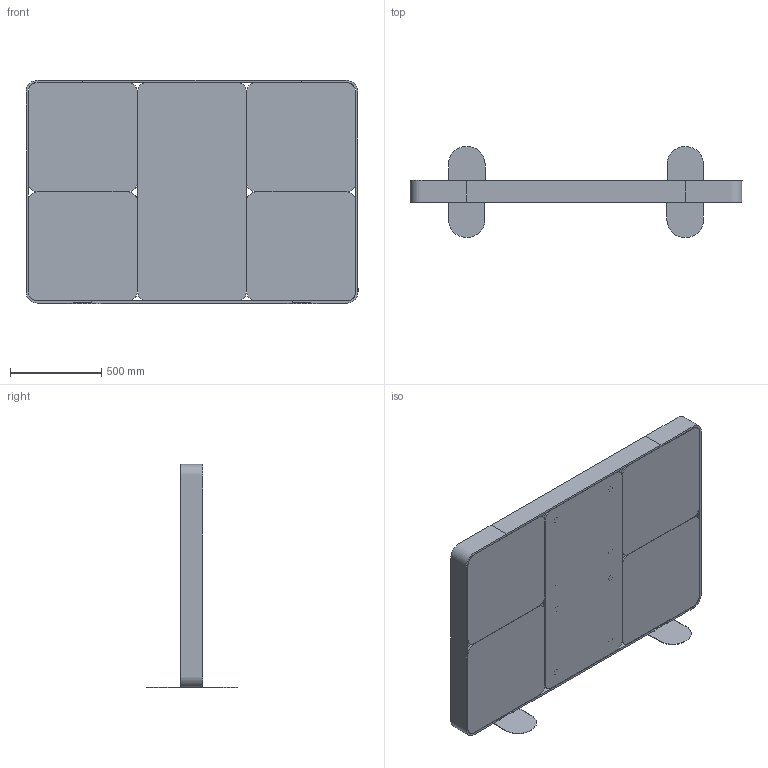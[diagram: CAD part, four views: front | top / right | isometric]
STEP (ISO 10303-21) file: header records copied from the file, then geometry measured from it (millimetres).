
FILE_DESCRIPTION(/* description */ (''),/* implementation_level */ '2;1');
FILE_NAME(/* name */ 'Quiet Wall_Horizontal',/* time_stamp */ '2026-06-15T17:05:07+12:00',/* author */ (''),/* organization */ (''),/* preprocessor_version */ 'ST-DEVELOPER v19.2',/* originating_system */ 'Rhino 8.31',/* authorisation */ '');
FILE_SCHEMA (('CONFIG_CONTROL_DESIGN'));
Length unit declared in the file: millimetre
Products named in the file (3): Document; #L1_(XFQ_3.0)_3D; #L12_(XFQ_3.0)_3D
Bounding box: 1824.06 x 498.64 x 1226.5 mm (x, y, z)
Volume: 59632050.7 mm3; surface area: 11026345.3 mm2
Topology: 18 solids, 18 shells, 462 faces, 1063 edges, 685 vertices
Faces by surface type: plane 216, cylinder 208, bspline 38
Entity records: 8715 total; most frequent: CARTESIAN_POINT 2766, ORIENTED_EDGE 1308, DIRECTION 750, EDGE_CURVE 654, AXIS2_PLACEMENT_3D 493, VERTEX_POINT 412, B_SPLINE_CURVE_WITH_KNOTS 391, EDGE_LOOP 318
